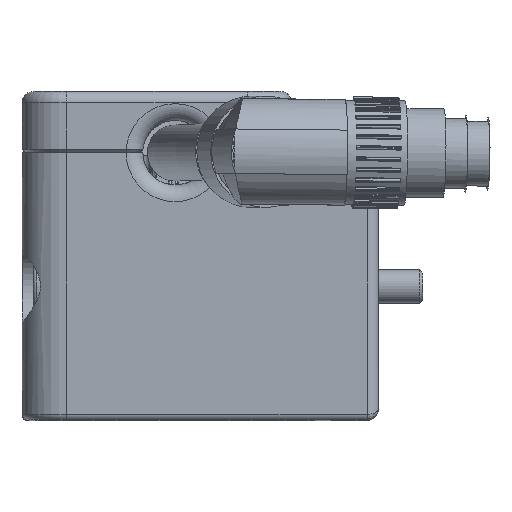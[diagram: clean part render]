
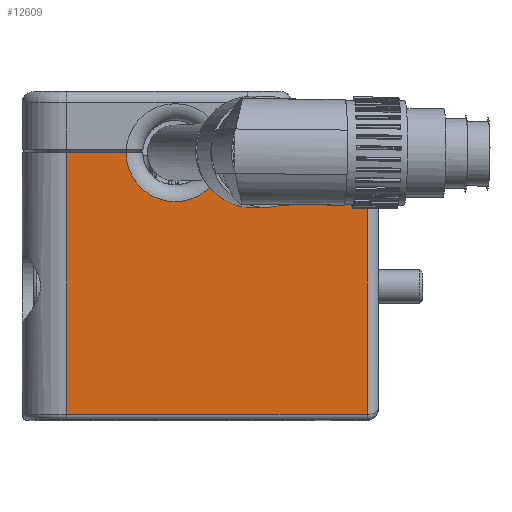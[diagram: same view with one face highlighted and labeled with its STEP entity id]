
A CAD part, top view. The second image highlights one B-rep face of the part: STEP entity #12609.
In plain terms, the highlighted planar face has unit normal (0, 0, 1).
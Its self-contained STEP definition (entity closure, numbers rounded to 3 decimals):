
#597=PLANE('',#13946);
#1236=FACE_OUTER_BOUND('',#2020,.T.);
#2020=EDGE_LOOP('',(#10730,#10731,#10732,#10733,#10734,#10735));
#2729=CIRCLE('',#13947,4.4);
#3736=LINE('',#23121,#4605);
#3746=LINE('',#23150,#4615);
#3747=LINE('',#23154,#4616);
#3748=LINE('',#23158,#4617);
#3749=LINE('',#23159,#4618);
#4605=VECTOR('',#17342,10.);
#4615=VECTOR('',#17366,10.);
#4616=VECTOR('',#17371,10.);
#4617=VECTOR('',#17374,10.);
#4618=VECTOR('',#17375,10.);
#5719=VERTEX_POINT('',#23113);
#5721=VERTEX_POINT('',#23119);
#5733=VERTEX_POINT('',#23149);
#5734=VERTEX_POINT('',#23153);
#5735=VERTEX_POINT('',#23155);
#5736=VERTEX_POINT('',#23157);
#7413=EDGE_CURVE('',#5721,#5719,#3736,.T.);
#7427=EDGE_CURVE('',#5719,#5733,#3746,.T.);
#7429=EDGE_CURVE('',#5734,#5721,#3747,.T.);
#7430=EDGE_CURVE('',#5735,#5734,#2729,.T.);
#7431=EDGE_CURVE('',#5736,#5735,#3748,.T.);
#7432=EDGE_CURVE('',#5733,#5736,#3749,.T.);
#10730=ORIENTED_EDGE('',*,*,#7413,.F.);
#10731=ORIENTED_EDGE('',*,*,#7429,.F.);
#10732=ORIENTED_EDGE('',*,*,#7430,.F.);
#10733=ORIENTED_EDGE('',*,*,#7431,.F.);
#10734=ORIENTED_EDGE('',*,*,#7432,.F.);
#10735=ORIENTED_EDGE('',*,*,#7427,.F.);
#12609=ADVANCED_FACE('',(#1236),#597,.T.);
#13946=AXIS2_PLACEMENT_3D('',#23152,#17369,#17370);
#13947=AXIS2_PLACEMENT_3D('',#23156,#17372,#17373);
#17342=DIRECTION('',(0.,-1.,0.));
#17366=DIRECTION('',(-1.,0.,0.));
#17369=DIRECTION('center_axis',(0.,0.,
1.));
#17370=DIRECTION('ref_axis',(0.,1.,0.));
#17371=DIRECTION('',(1.,0.,0.));
#17372=DIRECTION('center_axis',(0.,0.,
1.));
#17373=DIRECTION('ref_axis',(0.,-1.,0.));
#17374=DIRECTION('',(1.,0.,0.));
#17375=DIRECTION('',(0.,1.,0.));
#23113=CARTESIAN_POINT('',(-37.,0.6,17.));
#23119=CARTESIAN_POINT('',(-37.,24.1,17.));
#23121=CARTESIAN_POINT('',(-37.,24.1,17.));
#23149=CARTESIAN_POINT('',(-64.,0.6,17.));
#23150=CARTESIAN_POINT('',(-60.,0.6,17.));
#23152=CARTESIAN_POINT('Origin',(-68.,24.1,17.));
#23153=CARTESIAN_POINT('',(-49.85,24.1,17.));
#23154=CARTESIAN_POINT('',(-68.,24.1,17.));
#23155=CARTESIAN_POINT('',(-58.65,24.1,17.));
#23156=CARTESIAN_POINT('Origin',(-54.25,24.1,17.));
#23157=CARTESIAN_POINT('',(-64.,24.1,17.));
#23158=CARTESIAN_POINT('',(-68.,24.1,17.));
#23159=CARTESIAN_POINT('',(-64.,24.1,17.));
